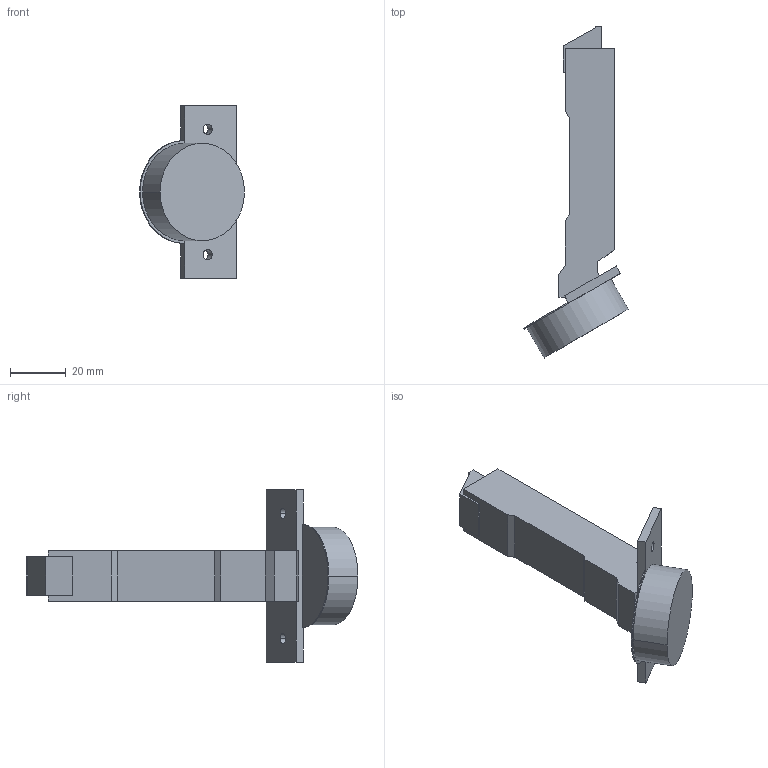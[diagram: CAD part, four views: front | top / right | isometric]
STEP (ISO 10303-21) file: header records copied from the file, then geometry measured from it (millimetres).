
FILE_DESCRIPTION (( 'STEP AP214' ), '1' );
FILE_NAME ('Scharnier TS Click-on 120°_-30° B_BB, aufliegend - Neu -.step', '2019-09-17T09:43:57', ( '' ), ( '' ), 'SwSTEP 2.0', 'SolidWorks 2019', '' );
FILE_SCHEMA (( 'AUTOMOTIVE_DESIGN' ));
Length unit declared in the file: millimetre
Products named in the file (1): Scharnier TS Click-on 120°_-30° B_BB, aufliegend - Neu -
Bounding box: 37.68 x 119.25 x 62 mm (x, y, z)
Volume: 43111.1 mm3; surface area: 12215.4 mm2
Topology: 1 solids, 1 shells, 49 faces, 129 edges, 86 vertices
Faces by surface type: plane 36, cylinder 13
Entity records: 1551 total; most frequent: CARTESIAN_POINT 265, ORIENTED_EDGE 258, DIRECTION 255, EDGE_CURVE 129, VECTOR 103, LINE 103, VERTEX_POINT 86, AXIS2_PLACEMENT_3D 76
